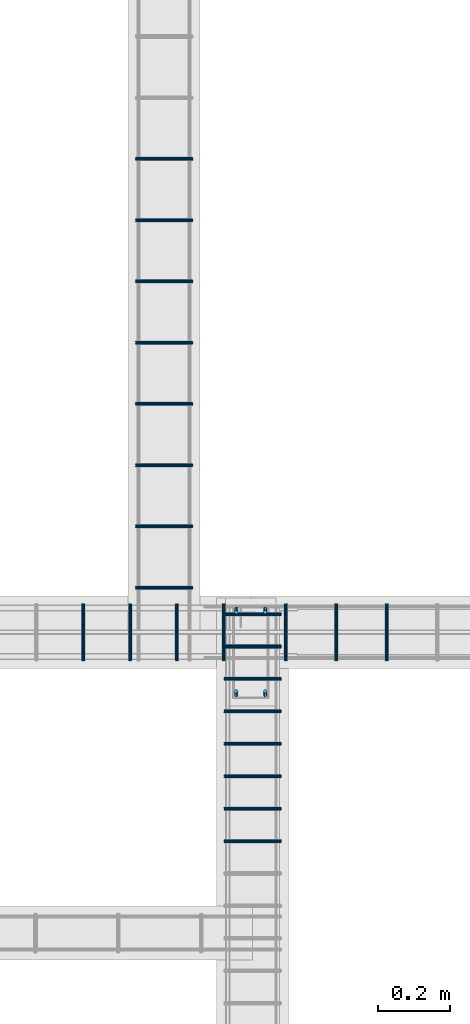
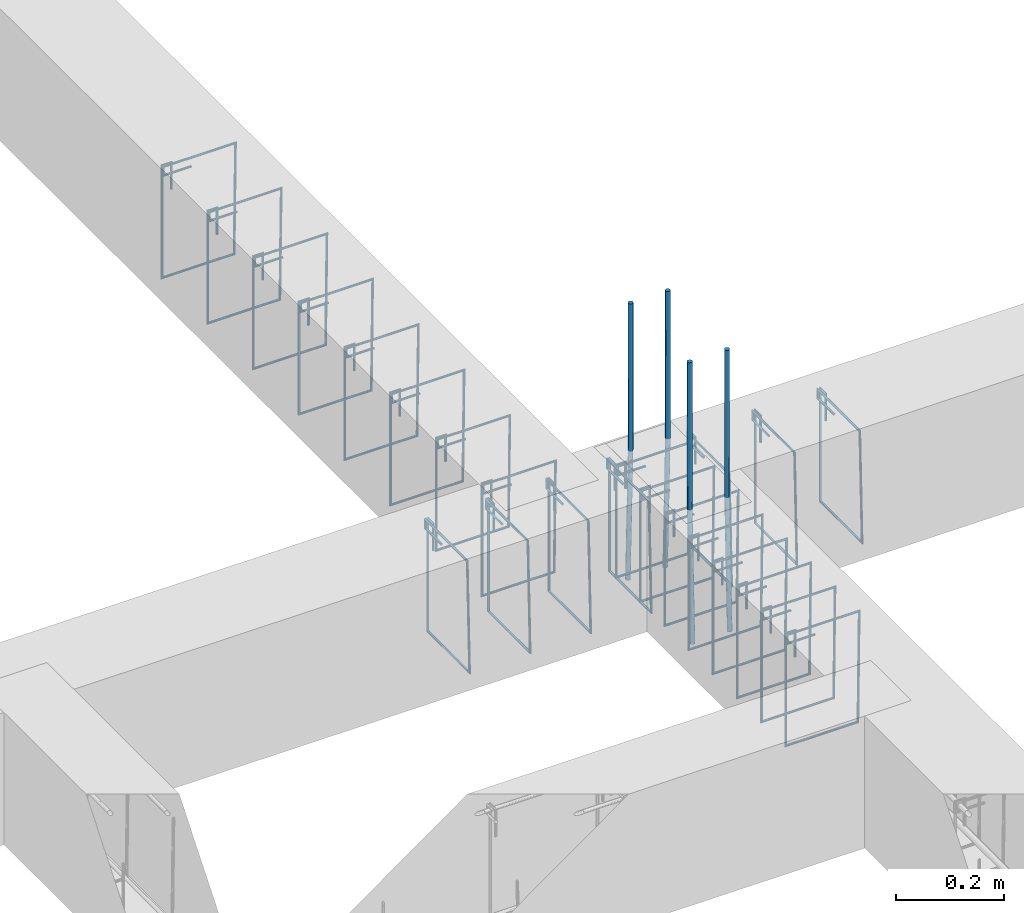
# One storey, part 133 of 150: 27 reinforcing bars.
"""IFC4 building model written with IfcOpenShell, lengths in centimetres."""

from ifc_helpers import new_model, entity, si_unit, derived_unit, frame, origin_with_axes, place, context, project, spatial, source, transform, mapped, element, save


model = new_model("IFC4")

# Units and contexts
model_context = context("Model", 3, precision=1e-05, world=origin_with_axes(), identifier="Body")
ifc_project = project(units=[si_unit("LENGTHUNIT", "METRE", prefix="CENTI"), si_unit("VOLUMEUNIT", "CUBIC_METRE"), si_unit("AREAUNIT", "SQUARE_METRE"), si_unit("POWERUNIT", "WATT"), si_unit("LUMINOUSFLUXUNIT", "LUMEN"), si_unit("ELECTRICCURRENTUNIT", "AMPERE"), si_unit("PRESSUREUNIT", "PASCAL", prefix="KILO"), si_unit("MASSUNIT", "GRAM", prefix="KILO"), si_unit("PLANEANGLEUNIT", "RADIAN"), derived_unit("VOLUMETRICFLOWRATEUNIT", [(si_unit("LENGTHUNIT", "METRE"), 3), (si_unit("TIMEUNIT", "SECOND"), -1)])], contexts=[model_context])

# Site, building, storey
site_placement = place(None, frame((-4000.0, 0.0, 0.0), z_axis=(0.0, 0.0, 1.0), x_axis=(1.0, 0.0, 0.0)))
site = spatial("IfcSite", under=ifc_project, at=site_placement, Name="PADRÃO")
building_placement = place(site_placement, frame((0.0, 0.0, -14.0)))
building = spatial("IfcBuilding", under=site, at=building_placement, Name="CRECHE PRÉ-ESCOLA TIPO 2")
placement = place(building_placement, origin_with_axes())
storey_placement = place(placement, frame((0.0, 0.0, 30.0), z_axis=(0.0, 0.0, 1.0), x_axis=(1.0, 0.0, 0.0)))
storey = spatial("IfcBuildingStorey", under=building, at=storey_placement, Name="VIGA BALDRAME", CompositionType="ELEMENT", Elevation=16.0)

# Reinforcing bars
shared_shape_1 = source(origin_with_axes(), model_context, "Body", "AdvancedSweptSolid", [
    entity("IfcSweptDiskSolid", entity("IfcCompositeCurve", [entity("IfcCompositeCurveSegment", "CONTINUOUS", True, entity("IfcPolyline", [entity("IfcCartesianPoint", [2.0, -6.0, 0.0]), entity("IfcCartesianPoint", [2.0, 0.0, 0.0])])), entity("IfcCompositeCurveSegment", "CONTINUOUS", True, entity("IfcPolyline", [entity("IfcCartesianPoint", [2.0, 0.0, 0.0]), entity("IfcCartesianPoint", [0.0, 0.0, 0.0])])), entity("IfcCompositeCurveSegment", "CONTINUOUS", True, entity("IfcPolyline", [entity("IfcCartesianPoint", [0.0, 0.0, 0.0]), entity("IfcCartesianPoint", [0.0, -25.5, 0.0])])), entity("IfcCompositeCurveSegment", "CONTINUOUS", True, entity("IfcPolyline", [entity("IfcCartesianPoint", [0.0, -25.5, 0.0]), entity("IfcCartesianPoint", [15.5, -25.5, 0.0])])), entity("IfcCompositeCurveSegment", "CONTINUOUS", True, entity("IfcPolyline", [entity("IfcCartesianPoint", [15.5, -25.5, 0.0]), entity("IfcCartesianPoint", [15.5, 0.0, 0.5])])), entity("IfcCompositeCurveSegment", "CONTINUOUS", True, entity("IfcPolyline", [entity("IfcCartesianPoint", [15.5, 0.0, 0.5]), entity("IfcCartesianPoint", [0.0, 0.0, 0.5])])), entity("IfcCompositeCurveSegment", "CONTINUOUS", True, entity("IfcPolyline", [entity("IfcCartesianPoint", [0.0, 0.0, 0.5]), entity("IfcCartesianPoint", [0.0, -2.0, 0.5])])), entity("IfcCompositeCurveSegment", "CONTINUOUS", True, entity("IfcPolyline", [entity("IfcCartesianPoint", [0.0, -2.0, 0.5]), entity("IfcCartesianPoint", [6.0, -2.0, 0.5])]))], False), 0.25),
])
for number, where, z_axis, x_axis, name in (
    (1, (3156.25016158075, 3477.76000518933, -2.25), (-1.0, 2.0768434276e-05, 0.0), (-2.0768434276e-05, -1.0, 0.0), "V111 - Estribo"),
    (2, (3143.25016158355, 3477.76027517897, -2.25), (-1.0, 2.0768434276e-05, 0.0), (-2.0768434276e-05, -1.0, 0.0), "V111 - Estribo"),
    (3, (3130.25016158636, 3477.76054516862, -2.25), (-1.0, 2.0768434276e-05, 0.0), (-2.0768434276e-05, -1.0, 0.0), "V111 - Estribo"),
    (4, (3117.25016158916, 3477.76081515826, -2.25), (-1.0, 2.0768434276e-05, 0.0), (-2.0768434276e-05, -1.0, 0.0), "V111 - Estribo"),
):
    element("IfcReinforcingBar", number, at=place(storey_placement, frame(where, z_axis=z_axis, x_axis=x_axis)), inside=storey, Name=name, BarLength=0.0, CrossSectionArea=1.9634954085e-05, NominalDiameter=0.5, PredefinedType="MAIN", context=model_context, shape_type="MappedRepresentation", body=[
        mapped(shared_shape_1, transform((0.0, 0.0, 0.0), scale=1.0)),
    ])
shared_shape_2 = source(origin_with_axes(), model_context, "Body", "AdvancedSweptSolid", [
    entity("IfcSweptDiskSolid", entity("IfcCompositeCurve", [entity("IfcCompositeCurveSegment", "CONTINUOUS", True, entity("IfcPolyline", [entity("IfcCartesianPoint", [2.0, -6.0, 0.0]), entity("IfcCartesianPoint", [2.0, 0.0, 0.0])])), entity("IfcCompositeCurveSegment", "CONTINUOUS", True, entity("IfcPolyline", [entity("IfcCartesianPoint", [2.0, 0.0, 0.0]), entity("IfcCartesianPoint", [0.0, 0.0, 0.0])])), entity("IfcCompositeCurveSegment", "CONTINUOUS", True, entity("IfcPolyline", [entity("IfcCartesianPoint", [0.0, 0.0, 0.0]), entity("IfcCartesianPoint", [0.0, -25.5, 0.0])])), entity("IfcCompositeCurveSegment", "CONTINUOUS", True, entity("IfcPolyline", [entity("IfcCartesianPoint", [0.0, -25.5, 0.0]), entity("IfcCartesianPoint", [15.5, -25.5, 0.0])])), entity("IfcCompositeCurveSegment", "CONTINUOUS", True, entity("IfcPolyline", [entity("IfcCartesianPoint", [15.5, -25.5, 0.0]), entity("IfcCartesianPoint", [15.5, 0.0, 0.5])])), entity("IfcCompositeCurveSegment", "CONTINUOUS", True, entity("IfcPolyline", [entity("IfcCartesianPoint", [15.5, 0.0, 0.5]), entity("IfcCartesianPoint", [0.0, 0.0, 0.5])])), entity("IfcCompositeCurveSegment", "CONTINUOUS", True, entity("IfcPolyline", [entity("IfcCartesianPoint", [0.0, 0.0, 0.5]), entity("IfcCartesianPoint", [0.0, -2.0, 0.5])])), entity("IfcCompositeCurveSegment", "CONTINUOUS", True, entity("IfcPolyline", [entity("IfcCartesianPoint", [0.0, -2.0, 0.5]), entity("IfcCartesianPoint", [6.0, -2.0, 0.5])]))], False), 0.25),
])
for number, where, z_axis, x_axis, name in (
    (5, (3201.5, 3477.76, -2.25), (-1.0, 0.0, 0.0), (0.0, -1.0, 0.0), "V111 - Estribo"),
    (6, (3187.5, 3477.76, -2.25), (-1.0, 0.0, 0.0), (0.0, -1.0, 0.0), "V111 - Estribo"),
    (7, (3173.5, 3477.76, -2.25), (-1.0, 0.0, 0.0), (0.0, -1.0, 0.0), "V111 - Estribo"),
):
    element("IfcReinforcingBar", number, at=place(storey_placement, frame(where, z_axis=z_axis, x_axis=x_axis)), inside=storey, Name=name, BarLength=0.0, CrossSectionArea=1.9634954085e-05, NominalDiameter=0.5, PredefinedType="MAIN", context=model_context, shape_type="MappedRepresentation", body=[
        mapped(shared_shape_2, transform((0.0, 0.0, 0.0), scale=1.0)),
    ])
shared_shape_3 = source(origin_with_axes(), model_context, "Body", "AdvancedSweptSolid", [
    entity("IfcSweptDiskSolid", entity("IfcCompositeCurve", [entity("IfcCompositeCurveSegment", "CONTINUOUS", True, entity("IfcPolyline", [entity("IfcCartesianPoint", [2.0, -6.0, 0.0]), entity("IfcCartesianPoint", [2.0, 0.0, 0.0])])), entity("IfcCompositeCurveSegment", "CONTINUOUS", True, entity("IfcPolyline", [entity("IfcCartesianPoint", [2.0, 0.0, 0.0]), entity("IfcCartesianPoint", [0.0, 0.0, 0.0])])), entity("IfcCompositeCurveSegment", "CONTINUOUS", True, entity("IfcPolyline", [entity("IfcCartesianPoint", [0.0, 0.0, 0.0]), entity("IfcCartesianPoint", [0.0, -25.5, 0.0])])), entity("IfcCompositeCurveSegment", "CONTINUOUS", True, entity("IfcPolyline", [entity("IfcCartesianPoint", [0.0, -25.5, 0.0]), entity("IfcCartesianPoint", [15.5, -25.5, 0.0])])), entity("IfcCompositeCurveSegment", "CONTINUOUS", True, entity("IfcPolyline", [entity("IfcCartesianPoint", [15.5, -25.5, 0.0]), entity("IfcCartesianPoint", [15.5, 0.0, 0.5])])), entity("IfcCompositeCurveSegment", "CONTINUOUS", True, entity("IfcPolyline", [entity("IfcCartesianPoint", [15.5, 0.0, 0.5]), entity("IfcCartesianPoint", [0.0, 0.0, 0.5])])), entity("IfcCompositeCurveSegment", "CONTINUOUS", True, entity("IfcPolyline", [entity("IfcCartesianPoint", [0.0, 0.0, 0.5]), entity("IfcCartesianPoint", [0.0, -2.0, 0.5])])), entity("IfcCompositeCurveSegment", "CONTINUOUS", True, entity("IfcPolyline", [entity("IfcCartesianPoint", [0.0, -2.0, 0.5]), entity("IfcCartesianPoint", [6.0, -2.0, 0.5])]))], False), 0.25),
])
for number, where, z_axis, x_axis, name in (
    (8, (3131.68, 3499.635, -2.25), (0.0, -1.0, 0.0), (1.0, 0.0, 0.0), "V221 - Estribo"),
    (9, (3131.68, 3533.635, -2.25), (0.0, -1.0, 0.0), (1.0, 0.0, 0.0), "V221 - Estribo"),
    (10, (3131.68, 3482.635, -2.25), (0.0, -1.0, 0.0), (1.0, 0.0, 0.0), "V221 - Estribo"),
    (11, (3131.68, 3601.635, -2.25), (0.0, -1.0, 0.0), (1.0, 0.0, 0.0), "V221 - Estribo"),
    (12, (3131.68, 3584.635, -2.25), (0.0, -1.0, 0.0), (1.0, 0.0, 0.0), "V221 - Estribo"),
    (13, (3131.68, 3567.635, -2.25), (0.0, -1.0, 0.0), (1.0, 0.0, 0.0), "V221 - Estribo"),
    (14, (3131.68, 3550.635, -2.25), (0.0, -1.0, 0.0), (1.0, 0.0, 0.0), "V221 - Estribo"),
    (15, (3131.68, 3516.635, -2.25), (0.0, -1.0, 0.0), (1.0, 0.0, 0.0), "V221 - Estribo"),
):
    element("IfcReinforcingBar", number, at=place(storey_placement, frame(where, z_axis=z_axis, x_axis=x_axis)), inside=storey, Name=name, BarLength=0.0, CrossSectionArea=1.9634954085e-05, NominalDiameter=0.5, PredefinedType="MAIN", context=model_context, shape_type="MappedRepresentation", body=[
        mapped(shared_shape_3, transform((0.0, 0.0, 0.0), scale=1.0)),
    ])
shared_shape_4 = source(origin_with_axes(), model_context, "Body", "AdvancedSweptSolid", [
    entity("IfcSweptDiskSolid", entity("IfcCompositeCurve", [entity("IfcCompositeCurveSegment", "CONTINUOUS", True, entity("IfcPolyline", [entity("IfcCartesianPoint", [2.0, -6.0, 0.0]), entity("IfcCartesianPoint", [2.0, 0.0, 0.0])])), entity("IfcCompositeCurveSegment", "CONTINUOUS", True, entity("IfcPolyline", [entity("IfcCartesianPoint", [2.0, 0.0, 0.0]), entity("IfcCartesianPoint", [0.0, 0.0, 0.0])])), entity("IfcCompositeCurveSegment", "CONTINUOUS", True, entity("IfcPolyline", [entity("IfcCartesianPoint", [0.0, 0.0, 0.0]), entity("IfcCartesianPoint", [0.0, -25.5, 0.0])])), entity("IfcCompositeCurveSegment", "CONTINUOUS", True, entity("IfcPolyline", [entity("IfcCartesianPoint", [0.0, -25.5, 0.0]), entity("IfcCartesianPoint", [15.5, -25.5, 0.0])])), entity("IfcCompositeCurveSegment", "CONTINUOUS", True, entity("IfcPolyline", [entity("IfcCartesianPoint", [15.5, -25.5, 0.0]), entity("IfcCartesianPoint", [15.5, 0.0, 0.5])])), entity("IfcCompositeCurveSegment", "CONTINUOUS", True, entity("IfcPolyline", [entity("IfcCartesianPoint", [15.5, 0.0, 0.5]), entity("IfcCartesianPoint", [0.0, 0.0, 0.5])])), entity("IfcCompositeCurveSegment", "CONTINUOUS", True, entity("IfcPolyline", [entity("IfcCartesianPoint", [0.0, 0.0, 0.5]), entity("IfcCartesianPoint", [0.0, -2.0, 0.5])])), entity("IfcCompositeCurveSegment", "CONTINUOUS", True, entity("IfcPolyline", [entity("IfcCartesianPoint", [0.0, -2.0, 0.5]), entity("IfcCartesianPoint", [6.0, -2.0, 0.5])]))], False), 0.25),
])
for number, where, z_axis, x_axis, name in (
    (16, (3156.25, 3475.3, -2.25), (0.0, -1.0, 0.0), (1.0, 0.0, 0.0), "V220 - Estribo"),
    (17, (3156.25, 3466.3, -2.25), (0.0, -1.0, 0.0), (1.0, 0.0, 0.0), "V220 - Estribo"),
    (18, (3156.25, 3457.3, -2.25), (0.0, -1.0, 0.0), (1.0, 0.0, 0.0), "V220 - Estribo"),
    (19, (3156.25, 3448.3, -2.25), (0.0, -1.0, 0.0), (1.0, 0.0, 0.0), "V220 - Estribo"),
    (20, (3156.25, 3439.3, -2.25), (0.0, -1.0, 0.0), (1.0, 0.0, 0.0), "V220 - Estribo"),
    (21, (3156.25, 3430.3, -2.25), (0.0, -1.0, 0.0), (1.0, 0.0, 0.0), "V220 - Estribo"),
    (22, (3156.25, 3421.3, -2.25), (0.0, -1.0, 0.0), (1.0, 0.0, 0.0), "V220 - Estribo"),
    (23, (3156.25, 3412.3, -2.25), (0.0, -1.0, 0.0), (1.0, 0.0, 0.0), "V220 - Estribo"),
):
    element("IfcReinforcingBar", number, at=place(storey_placement, frame(where, z_axis=z_axis, x_axis=x_axis)), inside=storey, Name=name, BarLength=0.0, CrossSectionArea=1.9634954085e-05, NominalDiameter=0.5, PredefinedType="MAIN", context=model_context, shape_type="MappedRepresentation", body=[
        mapped(shared_shape_4, transform((0.0, 0.0, 0.0), scale=1.0)),
    ])
reinforcing_bar_1_placement = place(storey_placement, frame((3167.5, 3453.08013877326, 33.3573001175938), z_axis=(0.0, 0.0, 1.0), x_axis=(1.0, 0.0, 0.0)))
element("IfcReinforcingBar", 24, at=reinforcing_bar_1_placement, inside=storey, Name="P44 - Longitudinal", BarLength=0.0, CrossSectionArea=7.853981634e-05, NominalDiameter=1.0, PredefinedType="MAIN", context=model_context, shape_type="AdvancedSweptSolid", body=[
    entity("IfcSweptDiskSolid", entity("IfcCompositeCurve", [entity("IfcCompositeCurveSegment", "CONTINUOUS", True, entity("IfcPolyline", [entity("IfcCartesianPoint", [0.0, -0.500138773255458, -63.3573001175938]), entity("IfcCartesianPoint", [0.0, 0.499861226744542, -33.3573001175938])])), entity("IfcCompositeCurveSegment", "CONTINUOUS", True, entity("IfcPolyline", [entity("IfcCartesianPoint", [0.0, 0.499861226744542, -33.3573001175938]), entity("IfcCartesianPoint", [0.0, 0.499861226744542, 0.0])]))], False), 0.5),
])
for number, where, z_axis, x_axis, name in (
    (25, (3159.5, 3476.07986122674, 33.3573001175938), (0.0, 0.0, 1.0), (1.0, 0.0, 0.0), "P44 - Longitudinal"),
    (26, (3167.5, 3476.07986122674, 33.3573001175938), (0.0, 0.0, 1.0), (1.0, 0.0, 0.0), "P44 - Longitudinal"),
):
    element("IfcReinforcingBar", number, at=place(storey_placement, frame(where, z_axis=z_axis, x_axis=x_axis)), inside=storey, Name=name, BarLength=0.0, CrossSectionArea=7.853981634e-05, NominalDiameter=1.0, PredefinedType="MAIN", context=model_context, shape_type="AdvancedSweptSolid", body=[
        entity("IfcSweptDiskSolid", entity("IfcCompositeCurve", [entity("IfcCompositeCurveSegment", "CONTINUOUS", True, entity("IfcPolyline", [entity("IfcCartesianPoint", [0.0, 0.500138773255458, -63.3573001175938]), entity("IfcCartesianPoint", [0.0, -0.499861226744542, -33.3573001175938])])), entity("IfcCompositeCurveSegment", "CONTINUOUS", True, entity("IfcPolyline", [entity("IfcCartesianPoint", [0.0, -0.499861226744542, -33.3573001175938]), entity("IfcCartesianPoint", [0.0, -0.499861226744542, 0.0])]))], False), 0.5),
    ])
reinforcing_bar_2_placement = place(storey_placement, frame((3159.5, 3453.08013877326, 33.3573001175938), z_axis=(0.0, 0.0, 1.0), x_axis=(1.0, 0.0, 0.0)))
element("IfcReinforcingBar", 27, at=reinforcing_bar_2_placement, inside=storey, Name="P44 - Longitudinal", BarLength=0.0, CrossSectionArea=7.853981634e-05, NominalDiameter=1.0, PredefinedType="MAIN", context=model_context, shape_type="AdvancedSweptSolid", body=[
    entity("IfcSweptDiskSolid", entity("IfcCompositeCurve", [entity("IfcCompositeCurveSegment", "CONTINUOUS", True, entity("IfcPolyline", [entity("IfcCartesianPoint", [0.0, -0.500138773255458, -63.3573001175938]), entity("IfcCartesianPoint", [0.0, 0.499861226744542, -33.3573001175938])])), entity("IfcCompositeCurveSegment", "CONTINUOUS", True, entity("IfcPolyline", [entity("IfcCartesianPoint", [0.0, 0.499861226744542, -33.3573001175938]), entity("IfcCartesianPoint", [0.0, 0.499861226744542, 0.0])]))], False), 0.5),
])

save(model, "model.ifc")
